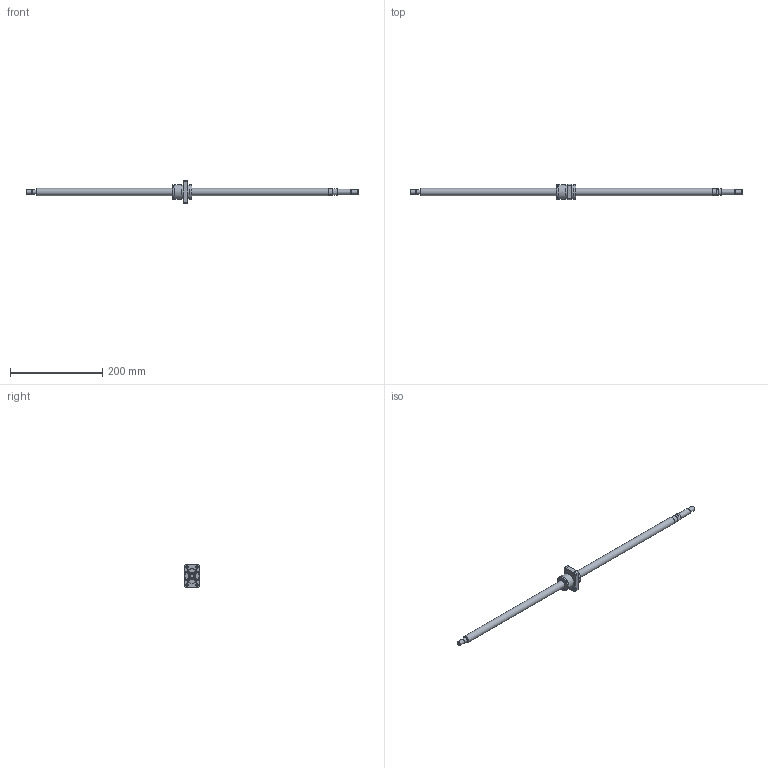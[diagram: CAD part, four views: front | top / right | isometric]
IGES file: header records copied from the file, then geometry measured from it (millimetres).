
Start section: Data from Parasolid IGES Translator 26.0.171, Copyright(c) 2006 Siemens PLM Software. All Rights Reserved.
Global section: file name: BNK1616-3.6G0+721LC5Y(3380).igs; native system: By Siemens PLM Incorporated; preprocessor: XPlus GENERIC/IGES 26.0.171; author: Noname; organization: Noname; date: 20240709.093209; units: millimetre
Bounding box: 721 x 34 x 50 mm (x, y, z)
Surface area: 46857 mm2 (no closed solid volume)
Topology: 0 solids, 0 shells, 139 faces, 647 edges, 588 vertices
Faces by surface type: extrusion 75, revolution 64
